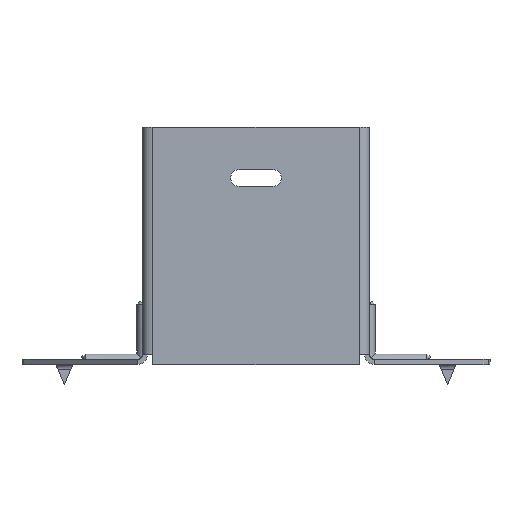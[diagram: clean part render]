
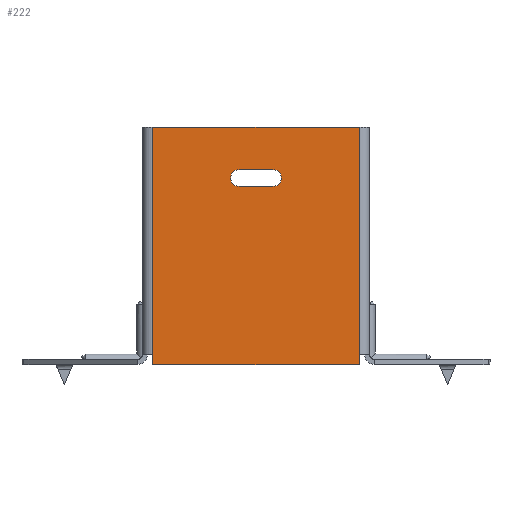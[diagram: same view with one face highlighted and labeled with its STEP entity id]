
A CAD part, front view. The second image highlights one B-rep face of the part: STEP entity #222.
In plain terms, the highlighted planar face has unit normal (0, -1, 0).
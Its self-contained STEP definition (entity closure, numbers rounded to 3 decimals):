
#5 = VERTEX_POINT ( 'NONE', #421 ) ;
#43 = VECTOR ( 'NONE', #7679, 1000. ) ;
#60 = FACE_OUTER_BOUND ( 'NONE', #7680, .T. ) ;
#217 = CIRCLE ( 'NONE', #5787, 2.5 ) ;
#222 = ADVANCED_FACE ( 'NONE', ( #561, #60 ), #7475, .F. ) ;
#400 = EDGE_CURVE ( 'NONE', #2100, #4118, #1187, .T. ) ;
#421 = CARTESIAN_POINT ( 'NONE',  ( 30.5, 0., -70. ) ) ;
#513 = LINE ( 'NONE', #7450, #12033 ) ;
#561 = FACE_BOUND ( 'NONE', #1363, .T. ) ;
#782 = DIRECTION ( 'NONE',  ( 0., 0., 1. ) ) ;
#966 = ORIENTED_EDGE ( 'NONE', *, *, #9183, .T. ) ;
#1021 = ORIENTED_EDGE ( 'NONE', *, *, #400, .T. ) ;
#1149 = DIRECTION ( 'NONE',  ( 0., 1., 0. ) ) ;
#1167 = DIRECTION ( 'NONE',  ( 0., 0., -1. ) ) ;
#1187 = LINE ( 'NONE', #8597, #12203 ) ;
#1248 = EDGE_CURVE ( 'NONE', #11018, #4118, #513, .T. ) ;
#1363 = EDGE_LOOP ( 'NONE', ( #10102, #8020, #3478, #966 ) ) ;
#1696 = LINE ( 'NONE', #8169, #6483 ) ;
#1971 = VECTOR ( 'NONE', #1167, 1000. ) ;
#2087 = CARTESIAN_POINT ( 'NONE',  ( 5., 0., -17.5 ) ) ;
#2100 = VERTEX_POINT ( 'NONE', #3287 ) ;
#2129 = EDGE_CURVE ( 'NONE', #11018, #12163, #2920, .T. ) ;
#2258 = CARTESIAN_POINT ( 'NONE',  ( 0., 0., 0. ) ) ;
#2696 = CIRCLE ( 'NONE', #4559, 2.5 ) ;
#2752 = DIRECTION ( 'NONE',  ( -1., 0., 0. ) ) ;
#2920 = LINE ( 'NONE', #11323, #1971 ) ;
#2985 = CARTESIAN_POINT ( 'NONE',  ( -5., 0., -12.5 ) ) ;
#3133 = EDGE_CURVE ( 'NONE', #8890, #4154, #13103, .T. ) ;
#3287 = CARTESIAN_POINT ( 'NONE',  ( 30.5, 0., -67. ) ) ;
#3428 = CARTESIAN_POINT ( 'NONE',  ( -5., 0., -12.5 ) ) ;
#3478 = ORIENTED_EDGE ( 'NONE', *, *, #3133, .T. ) ;
#3498 = DIRECTION ( 'NONE',  ( 0., 0., 1. ) ) ;
#3691 = CARTESIAN_POINT ( 'NONE',  ( -5., 0., -17.5 ) ) ;
#3961 = CARTESIAN_POINT ( 'NONE',  ( 30.5, 0., 0. ) ) ;
#3993 = CARTESIAN_POINT ( 'NONE',  ( 30.5, 0., -70. ) ) ;
#4049 = CARTESIAN_POINT ( 'NONE',  ( -30.5, 0., -67. ) ) ;
#4118 = VERTEX_POINT ( 'NONE', #3961 ) ;
#4154 = VERTEX_POINT ( 'NONE', #10086 ) ;
#4299 = ORIENTED_EDGE ( 'NONE', *, *, #2129, .T. ) ;
#4498 = VECTOR ( 'NONE', #10975, 1000. ) ;
#4556 = CARTESIAN_POINT ( 'NONE',  ( 5., 0., -15. ) ) ;
#4559 = AXIS2_PLACEMENT_3D ( 'NONE', #9031, #8853, #12964 ) ;
#4672 = ORIENTED_EDGE ( 'NONE', *, *, #11656, .T. ) ;
#4774 = VERTEX_POINT ( 'NONE', #5281 ) ;
#4866 = DIRECTION ( 'NONE',  ( 0., 1., 0. ) ) ;
#5266 = VERTEX_POINT ( 'NONE', #2087 ) ;
#5281 = CARTESIAN_POINT ( 'NONE',  ( -5., 0., -17.5 ) ) ;
#5787 = AXIS2_PLACEMENT_3D ( 'NONE', #4556, #4866, #782 ) ;
#6119 = CARTESIAN_POINT ( 'NONE',  ( -30.5, 0., -70. ) ) ;
#6211 = ORIENTED_EDGE ( 'NONE', *, *, #9322, .T. ) ;
#6483 = VECTOR ( 'NONE', #12205, 1000. ) ;
#6838 = ORIENTED_EDGE ( 'NONE', *, *, #1248, .F. ) ;
#7147 = CARTESIAN_POINT ( 'NONE',  ( -30.5, 0., 0. ) ) ;
#7239 = VECTOR ( 'NONE', #12742, 1000. ) ;
#7450 = CARTESIAN_POINT ( 'NONE',  ( -32., 0., 0. ) ) ;
#7475 = PLANE ( 'NONE',  #13139 ) ;
#7679 = DIRECTION ( 'NONE',  ( -1., 0., 0. ) ) ;
#7680 = EDGE_LOOP ( 'NONE', ( #4299, #6211, #13175, #4672, #1021, #6838 ) ) ;
#7728 = EDGE_CURVE ( 'NONE', #4774, #8890, #2696, .T. ) ;
#8020 = ORIENTED_EDGE ( 'NONE', *, *, #7728, .T. ) ;
#8169 = CARTESIAN_POINT ( 'NONE',  ( -30.5, 0., 0. ) ) ;
#8597 = CARTESIAN_POINT ( 'NONE',  ( 30.5, 0., -70. ) ) ;
#8853 = DIRECTION ( 'NONE',  ( 0., 1., 0. ) ) ;
#8890 = VERTEX_POINT ( 'NONE', #2985 ) ;
#8926 = VERTEX_POINT ( 'NONE', #6119 ) ;
#9031 = CARTESIAN_POINT ( 'NONE',  ( -5., 0., -15. ) ) ;
#9154 = LINE ( 'NONE', #3993, #4498 ) ;
#9183 = EDGE_CURVE ( 'NONE', #4154, #5266, #217, .T. ) ;
#9322 = EDGE_CURVE ( 'NONE', #12163, #8926, #1696, .T. ) ;
#9356 = LINE ( 'NONE', #3691, #10952 ) ;
#9493 = DIRECTION ( 'NONE',  ( 1., 0., 0. ) ) ;
#10086 = CARTESIAN_POINT ( 'NONE',  ( 5., 0., -12.5 ) ) ;
#10102 = ORIENTED_EDGE ( 'NONE', *, *, #12446, .T. ) ;
#10952 = VECTOR ( 'NONE', #2752, 1000. ) ;
#10975 = DIRECTION ( 'NONE',  ( 0., 0., 1. ) ) ;
#11018 = VERTEX_POINT ( 'NONE', #7147 ) ;
#11155 = LINE ( 'NONE', #12734, #43 ) ;
#11323 = CARTESIAN_POINT ( 'NONE',  ( -30.5, 0., 0. ) ) ;
#11656 = EDGE_CURVE ( 'NONE', #5, #2100, #9154, .T. ) ;
#12033 = VECTOR ( 'NONE', #9493, 1000. ) ;
#12163 = VERTEX_POINT ( 'NONE', #4049 ) ;
#12203 = VECTOR ( 'NONE', #3498, 1000. ) ;
#12205 = DIRECTION ( 'NONE',  ( 0., 0., -1. ) ) ;
#12446 = EDGE_CURVE ( 'NONE', #5266, #4774, #9356, .T. ) ;
#12497 = DIRECTION ( 'NONE',  ( 0., 0., 1. ) ) ;
#12533 = EDGE_CURVE ( 'NONE', #5, #8926, #11155, .T. ) ;
#12734 = CARTESIAN_POINT ( 'NONE',  ( -32., 0., -70. ) ) ;
#12742 = DIRECTION ( 'NONE',  ( 1., 0., 0. ) ) ;
#12964 = DIRECTION ( 'NONE',  ( 0., 0., 1. ) ) ;
#13103 = LINE ( 'NONE', #3428, #7239 ) ;
#13139 = AXIS2_PLACEMENT_3D ( 'NONE', #2258, #1149, #12497 ) ;
#13175 = ORIENTED_EDGE ( 'NONE', *, *, #12533, .F. ) ;
